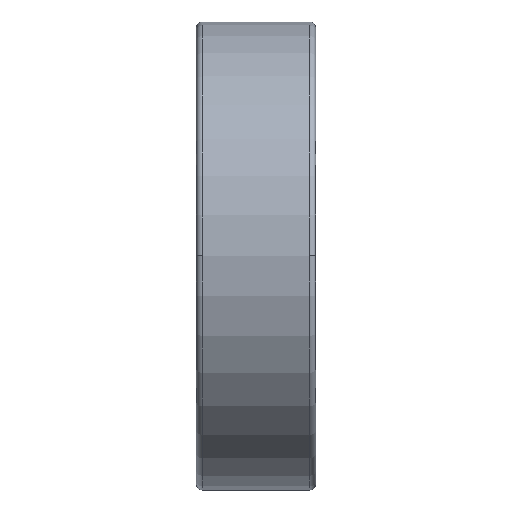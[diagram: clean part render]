
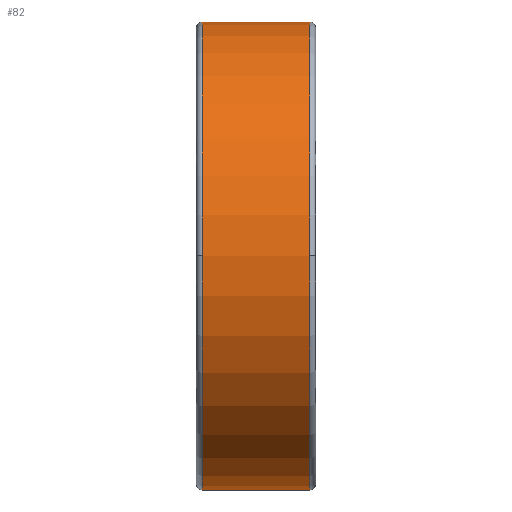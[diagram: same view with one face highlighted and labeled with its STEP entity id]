
A CAD part, top view. The second image highlights one B-rep face of the part: STEP entity #82.
In plain terms, the highlighted cylindrical face has radius 23.5 mm (diameter 47 mm), a partial arc.
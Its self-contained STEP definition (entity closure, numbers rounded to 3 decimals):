
#82=ADVANCED_FACE('',(#205),#206,.T.);
#205=FACE_OUTER_BOUND('',#467,.T.);
#206=CYLINDRICAL_SURFACE('',#468,23.5);
#467=EDGE_LOOP('',(#753,#754,#755,#756,#757,#758));
#468=AXIS2_PLACEMENT_3D('',#759,#760,#761);
#753=ORIENTED_EDGE('',*,*,#1621,.F.);
#754=ORIENTED_EDGE('',*,*,#1622,.T.);
#755=ORIENTED_EDGE('',*,*,#1623,.T.);
#756=ORIENTED_EDGE('',*,*,#1624,.F.);
#757=ORIENTED_EDGE('',*,*,#1625,.F.);
#758=ORIENTED_EDGE('',*,*,#1617,.F.);
#759=CARTESIAN_POINT('',(6.0,0.0,0.0));
#760=DIRECTION('',(1.0,0.0,0.0));
#761=DIRECTION('',(0.0,1.0,0.0));
#1617=EDGE_CURVE('',#1892,#1894,#1895,.T.);
#1621=EDGE_CURVE('',#1901,#1892,#1902,.T.);
#1622=EDGE_CURVE('',#1901,#1903,#1904,.T.);
#1623=EDGE_CURVE('',#1903,#1905,#1906,.T.);
#1624=EDGE_CURVE('',#1907,#1905,#1908,.T.);
#1625=EDGE_CURVE('',#1894,#1907,#1909,.T.);
#1892=VERTEX_POINT('',#2330);
#1894=VERTEX_POINT('',#2332);
#1895=CIRCLE('',#2333,23.5);
#1901=VERTEX_POINT('',#2339);
#1902=LINE('',#2340,#2341);
#1903=VERTEX_POINT('',#2342);
#1904=CIRCLE('',#2343,23.5);
#1905=VERTEX_POINT('',#2344);
#1906=CIRCLE('',#2345,23.5);
#1907=VERTEX_POINT('',#2346);
#1908=LINE('',#2347,#2348);
#1909=CIRCLE('',#2349,23.5);
#2330=CARTESIAN_POINT('',(11.4,23.5,0.0));
#2332=CARTESIAN_POINT('',(11.4,0.,23.5));
#2333=AXIS2_PLACEMENT_3D('',#2833,#2834,#2835);
#2339=CARTESIAN_POINT('',(0.6,23.5,0.0));
#2340=CARTESIAN_POINT('',(6.0,23.5,0.));
#2341=VECTOR('',#2845,1.0);
#2342=CARTESIAN_POINT('',(0.6,0.,23.5));
#2343=AXIS2_PLACEMENT_3D('',#2846,#2847,#2848);
#2344=CARTESIAN_POINT('',(0.6,-23.5,0.));
#2345=AXIS2_PLACEMENT_3D('',#2849,#2850,#2851);
#2346=CARTESIAN_POINT('',(11.4,-23.5,0.));
#2347=CARTESIAN_POINT('',(6.0,-23.5,0.));
#2348=VECTOR('',#2852,1.0);
#2349=AXIS2_PLACEMENT_3D('',#2853,#2854,#2855);
#2833=CARTESIAN_POINT('',(11.4,0.0,0.0));
#2834=DIRECTION('',(1.0,0.0,0.0));
#2835=DIRECTION('',(0.0,1.0,0.0));
#2845=DIRECTION('',(1.0,0.0,0.0));
#2846=CARTESIAN_POINT('',(0.6,0.0,0.0));
#2847=DIRECTION('',(1.0,0.0,0.0));
#2848=DIRECTION('',(0.0,1.0,0.0));
#2849=CARTESIAN_POINT('',(0.6,0.0,0.0));
#2850=DIRECTION('',(1.0,0.0,0.0));
#2851=DIRECTION('',(0.0,1.0,0.0));
#2852=DIRECTION('',(-1.0,-0.0,-0.0));
#2853=CARTESIAN_POINT('',(11.4,0.0,0.0));
#2854=DIRECTION('',(1.0,0.0,0.0));
#2855=DIRECTION('',(0.0,1.0,0.0));
